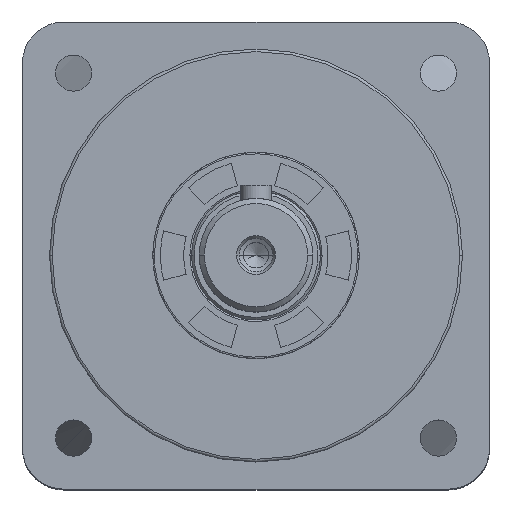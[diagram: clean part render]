
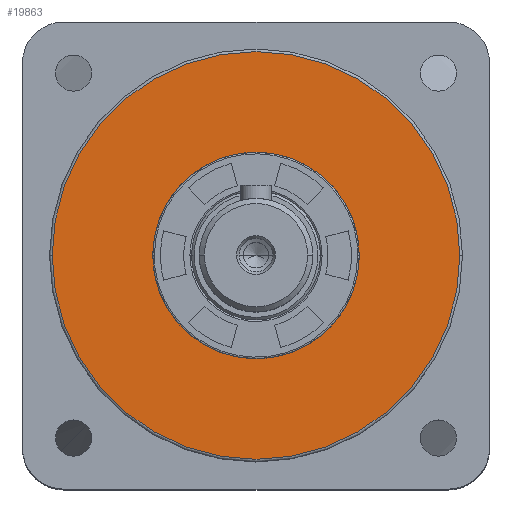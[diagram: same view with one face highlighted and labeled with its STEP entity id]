
A CAD part, top view. The second image highlights one B-rep face of the part: STEP entity #19863.
In plain terms, the highlighted planar face has unit normal (0, 0, 1).
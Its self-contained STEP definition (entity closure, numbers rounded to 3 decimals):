
#686 = CARTESIAN_POINT ( 'NONE',  ( 0., 0., 26.1 ) ) ;
#1427 = DIRECTION ( 'NONE',  ( 1., 0., 0. ) ) ;
#1668 = VERTEX_POINT ( 'NONE', #6248 ) ;
#2697 = CARTESIAN_POINT ( 'NONE',  ( 20., 0., 26.1 ) ) ;
#2788 = CARTESIAN_POINT ( 'NONE',  ( 39.5, 0., 26.1 ) ) ;
#3174 = DIRECTION ( 'NONE',  ( 1., 0., 0. ) ) ;
#3388 = FACE_OUTER_BOUND ( 'NONE', #21412, .T. ) ;
#3391 = CIRCLE ( 'NONE', #30854, 39.5 ) ;
#3949 = CARTESIAN_POINT ( 'NONE',  ( 0., 0., 26.1 ) ) ;
#4717 = ORIENTED_EDGE ( 'NONE', *, *, #6828, .T. ) ;
#6196 = DIRECTION ( 'NONE',  ( 0., 0., 1. ) ) ;
#6248 = CARTESIAN_POINT ( 'NONE',  ( -20., 0., 26.1 ) ) ;
#6828 = EDGE_CURVE ( 'NONE', #25464, #24130, #30807, .T. ) ;
#7813 = CARTESIAN_POINT ( 'NONE',  ( -39.5, 0., 26.1 ) ) ;
#8307 = FACE_BOUND ( 'NONE', #21929, .T. ) ;
#8653 = ORIENTED_EDGE ( 'NONE', *, *, #13032, .F. ) ;
#9584 = EDGE_CURVE ( 'NONE', #24130, #25464, #3391, .T. ) ;
#10405 = ORIENTED_EDGE ( 'NONE', *, *, #9584, .T. ) ;
#11394 = VERTEX_POINT ( 'NONE', #2697 ) ;
#11797 = ORIENTED_EDGE ( 'NONE', *, *, #23404, .F. ) ;
#13032 = EDGE_CURVE ( 'NONE', #11394, #1668, #18686, .T. ) ;
#13306 = PLANE ( 'NONE',  #20734 ) ;
#13572 = DIRECTION ( 'NONE',  ( 1., 0., 0. ) ) ;
#14818 = DIRECTION ( 'NONE',  ( 1., 0., 0. ) ) ;
#15674 = CARTESIAN_POINT ( 'NONE',  ( 0., 0., 26.1 ) ) ;
#18686 = CIRCLE ( 'NONE', #25881, 20. ) ;
#19364 = AXIS2_PLACEMENT_3D ( 'NONE', #3949, #25509, #1427 ) ;
#19858 = DIRECTION ( 'NONE',  ( 0., 0., 1. ) ) ;
#19863 = ADVANCED_FACE ( 'NONE', ( #3388, #8307 ), #13306, .T. ) ;
#20734 = AXIS2_PLACEMENT_3D ( 'NONE', #15674, #6196, #22918 ) ;
#20784 = CARTESIAN_POINT ( 'NONE',  ( 0., 0., 26.1 ) ) ;
#21412 = EDGE_LOOP ( 'NONE', ( #4717, #10405 ) ) ;
#21643 = CIRCLE ( 'NONE', #19364, 20. ) ;
#21929 = EDGE_LOOP ( 'NONE', ( #8653, #11797 ) ) ;
#22918 = DIRECTION ( 'NONE',  ( 1., 0., 0. ) ) ;
#23404 = EDGE_CURVE ( 'NONE', #1668, #11394, #21643, .T. ) ;
#24130 = VERTEX_POINT ( 'NONE', #7813 ) ;
#24545 = DIRECTION ( 'NONE',  ( 0., 0., 1. ) ) ;
#25464 = VERTEX_POINT ( 'NONE', #2788 ) ;
#25509 = DIRECTION ( 'NONE',  ( 0., 0., 1. ) ) ;
#25881 = AXIS2_PLACEMENT_3D ( 'NONE', #686, #19858, #14818 ) ;
#27065 = CARTESIAN_POINT ( 'NONE',  ( 0., 0., 26.1 ) ) ;
#27915 = DIRECTION ( 'NONE',  ( 0., 0., 1. ) ) ;
#28593 = AXIS2_PLACEMENT_3D ( 'NONE', #20784, #27915, #13572 ) ;
#30807 = CIRCLE ( 'NONE', #28593, 39.5 ) ;
#30854 = AXIS2_PLACEMENT_3D ( 'NONE', #27065, #24545, #3174 ) ;
